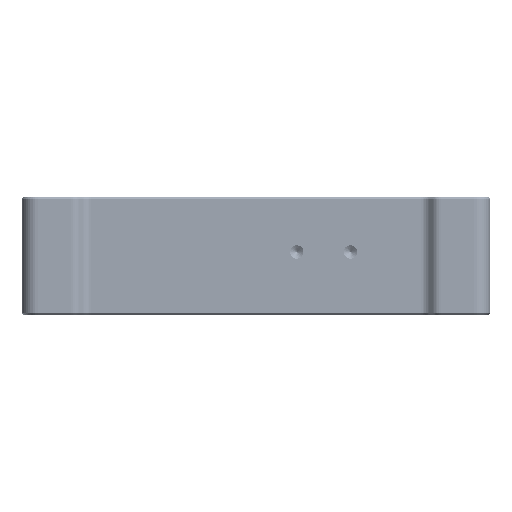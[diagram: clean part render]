
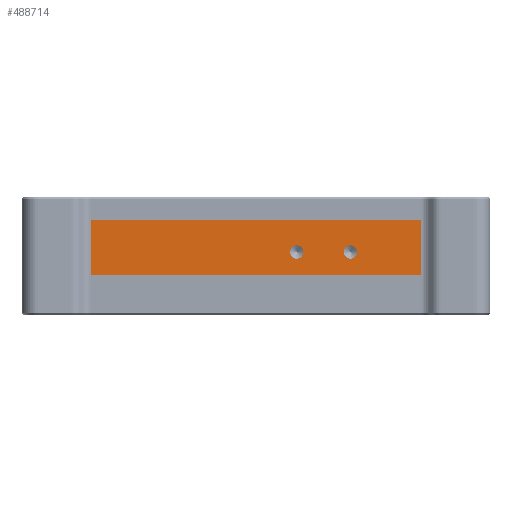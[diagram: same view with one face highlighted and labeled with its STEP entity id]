
A CAD part, front view. The second image highlights one B-rep face of the part: STEP entity #488714.
In plain terms, the highlighted planar face has unit normal (0, -1, 0) as drawn and (0, 0, -1) by its records, which use the part's own axes.
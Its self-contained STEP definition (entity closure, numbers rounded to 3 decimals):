
#24741 = DIRECTION ( 'NONE',  ( 0., 0., -1. ) ) ;
#61390 = VERTEX_POINT ( 'NONE', #74050 ) ;
#72058 = CIRCLE ( 'NONE', #277262, 1.25 ) ;
#74050 = CARTESIAN_POINT ( 'NONE',  ( 49.95, 5.95, 2. ) ) ;
#74226 = LINE ( 'NONE', #634747, #330811 ) ;
#75882 = VERTEX_POINT ( 'NONE', #196569 ) ;
#79072 = CARTESIAN_POINT ( 'NONE',  ( 52.45, 5.95, 2. ) ) ;
#82668 = AXIS2_PLACEMENT_3D ( 'NONE', #222576, #24741, #507405 ) ;
#89117 = CARTESIAN_POINT ( 'NONE',  ( 12., 10.2, 2. ) ) ;
#165545 = EDGE_CURVE ( 'NONE', #301341, #776761, #74226, .T. ) ;
#168306 = DIRECTION ( 'NONE',  ( 0., 0., -1. ) ) ;
#196569 = CARTESIAN_POINT ( 'NONE',  ( 12.911, 0., 2. ) ) ;
#217599 = ORIENTED_EDGE ( 'NONE', *, *, #165545, .T. ) ;
#222576 = CARTESIAN_POINT ( 'NONE',  ( 61.2, 5.95, 2. ) ) ;
#243176 = FACE_OUTER_BOUND ( 'NONE', #878507, .T. ) ;
#249481 = AXIS2_PLACEMENT_3D ( 'NONE', #450035, #371963, #858880 ) ;
#261658 = DIRECTION ( 'NONE',  ( -1., 0., 0. ) ) ;
#269220 = CIRCLE ( 'NONE', #797986, 1.25 ) ;
#277262 = AXIS2_PLACEMENT_3D ( 'NONE', #629295, #399792, #413424 ) ;
#287374 = ORIENTED_EDGE ( 'NONE', *, *, #360983, .F. ) ;
#301341 = VERTEX_POINT ( 'NONE', #852454 ) ;
#307661 = FACE_BOUND ( 'NONE', #516432, .T. ) ;
#307899 = ORIENTED_EDGE ( 'NONE', *, *, #719500, .F. ) ;
#307933 = ORIENTED_EDGE ( 'NONE', *, *, #400585, .F. ) ;
#312066 = VERTEX_POINT ( 'NONE', #629430 ) ;
#330811 = VECTOR ( 'NONE', #708216, 1000. ) ;
#360983 = EDGE_CURVE ( 'NONE', #782985, #61390, #269220, .T. ) ;
#365726 = CARTESIAN_POINT ( 'NONE',  ( 12.911, 10.2, 2. ) ) ;
#371963 = DIRECTION ( 'NONE',  ( 0., 0., 1. ) ) ;
#399792 = DIRECTION ( 'NONE',  ( 0., 0., -1. ) ) ;
#400585 = EDGE_CURVE ( 'NONE', #886209, #679410, #783092, .T. ) ;
#413424 = DIRECTION ( 'NONE',  ( -1., 0., 0. ) ) ;
#422754 = ORIENTED_EDGE ( 'NONE', *, *, #876399, .F. ) ;
#425838 = CARTESIAN_POINT ( 'NONE',  ( 59.95, 5.95, 2. ) ) ;
#431315 = CARTESIAN_POINT ( 'NONE',  ( 74.289, 0., 2. ) ) ;
#448495 = DIRECTION ( 'NONE',  ( -1., 0., 0. ) ) ;
#450035 = CARTESIAN_POINT ( 'NONE',  ( 12., 10.2, 2. ) ) ;
#453125 = CARTESIAN_POINT ( 'NONE',  ( 62.45, 5.95, 2. ) ) ;
#458318 = CARTESIAN_POINT ( 'NONE',  ( 12., 0., 2. ) ) ;
#467325 = DIRECTION ( 'NONE',  ( -1., 0., 0. ) ) ;
#488708 = ORIENTED_EDGE ( 'NONE', *, *, #527816, .T. ) ;
#488714 = ADVANCED_FACE ( 'NONE', ( #307661, #587936, #243176 ), #505410, .F. ) ;
#505410 = PLANE ( 'NONE',  #249481 ) ;
#507405 = DIRECTION ( 'NONE',  ( -1., 0., 0. ) ) ;
#516432 = EDGE_LOOP ( 'NONE', ( #422754, #287374 ) ) ;
#527816 = EDGE_CURVE ( 'NONE', #776761, #75882, #871767, .T. ) ;
#555637 = EDGE_CURVE ( 'NONE', #301341, #312066, #645080, .T. ) ;
#587936 = FACE_BOUND ( 'NONE', #607822, .T. ) ;
#607822 = EDGE_LOOP ( 'NONE', ( #307899, #307933 ) ) ;
#610826 = DIRECTION ( 'NONE',  ( 0., 0., -1. ) ) ;
#629295 = CARTESIAN_POINT ( 'NONE',  ( 51.2, 5.95, 2. ) ) ;
#629430 = CARTESIAN_POINT ( 'NONE',  ( 12.911, 10.2, 2. ) ) ;
#634747 = CARTESIAN_POINT ( 'NONE',  ( 74.289, 0., 2. ) ) ;
#645080 = LINE ( 'NONE', #89117, #808219 ) ;
#645974 = DIRECTION ( 'NONE',  ( 0., 1., 0. ) ) ;
#679410 = VERTEX_POINT ( 'NONE', #425838 ) ;
#689722 = ORIENTED_EDGE ( 'NONE', *, *, #555637, .F. ) ;
#708216 = DIRECTION ( 'NONE',  ( 0., -1., 0. ) ) ;
#710334 = AXIS2_PLACEMENT_3D ( 'NONE', #748686, #610826, #261658 ) ;
#714933 = LINE ( 'NONE', #365726, #810419 ) ;
#719500 = EDGE_CURVE ( 'NONE', #679410, #886209, #816673, .T. ) ;
#719810 = CARTESIAN_POINT ( 'NONE',  ( 51.2, 5.95, 2. ) ) ;
#727906 = EDGE_CURVE ( 'NONE', #75882, #312066, #714933, .T. ) ;
#748686 = CARTESIAN_POINT ( 'NONE',  ( 61.2, 5.95, 2. ) ) ;
#773847 = DIRECTION ( 'NONE',  ( -1., 0., 0. ) ) ;
#776761 = VERTEX_POINT ( 'NONE', #431315 ) ;
#782985 = VERTEX_POINT ( 'NONE', #79072 ) ;
#783092 = CIRCLE ( 'NONE', #710334, 1.25 ) ;
#797986 = AXIS2_PLACEMENT_3D ( 'NONE', #719810, #168306, #448495 ) ;
#808219 = VECTOR ( 'NONE', #773847, 1000. ) ;
#810419 = VECTOR ( 'NONE', #645974, 1000. ) ;
#816673 = CIRCLE ( 'NONE', #82668, 1.25 ) ;
#839926 = VECTOR ( 'NONE', #467325, 1000. ) ;
#852454 = CARTESIAN_POINT ( 'NONE',  ( 74.289, 10.2, 2. ) ) ;
#858880 = DIRECTION ( 'NONE',  ( 1., 0., 0. ) ) ;
#871767 = LINE ( 'NONE', #458318, #839926 ) ;
#876399 = EDGE_CURVE ( 'NONE', #61390, #782985, #72058, .T. ) ;
#877604 = ORIENTED_EDGE ( 'NONE', *, *, #727906, .T. ) ;
#878507 = EDGE_LOOP ( 'NONE', ( #488708, #877604, #689722, #217599 ) ) ;
#886209 = VERTEX_POINT ( 'NONE', #453125 ) ;
